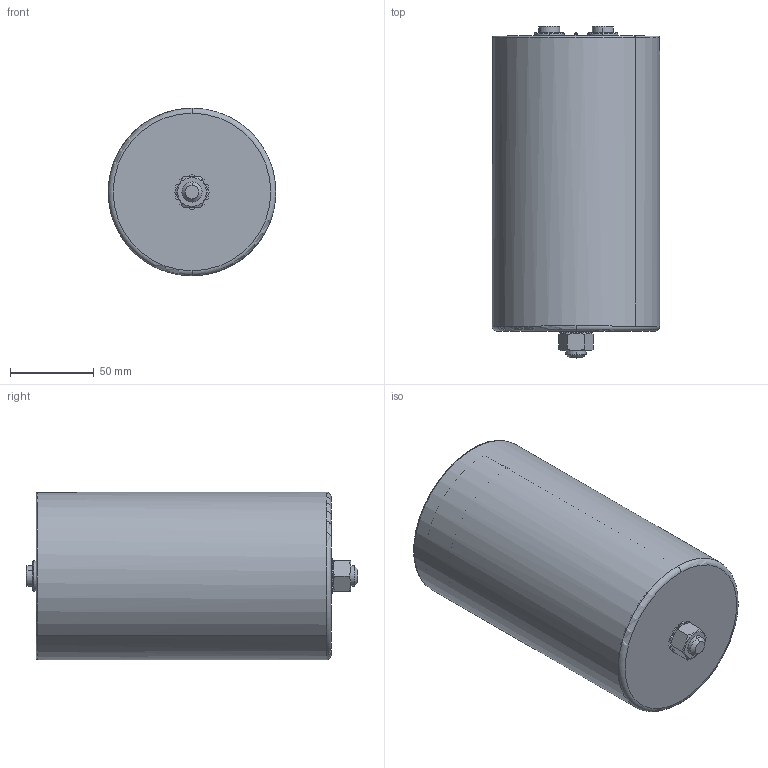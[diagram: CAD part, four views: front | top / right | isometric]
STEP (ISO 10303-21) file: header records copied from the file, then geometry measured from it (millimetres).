
FILE_DESCRIPTION (( 'STEP AP214' ), '1' );
FILE_NAME ('B25694M Series D100 Hc176 Ht182.STEP', '2025-07-24T06:45:56', ( '' ), ( '' ), 'SwSTEP 2.0', 'SolidWorks 2019', '' );
FILE_SCHEMA (( 'AUTOMOTIVE_DESIGN' ));
Length unit declared in the file: millimetre
Products named in the file (1): B25694M Series D100 Hc176 Ht182
Bounding box: 99.91 x 198 x 100 mm (x, y, z)
Volume: 113243.8 mm3; surface area: 158142.8 mm2
Topology: 1 solids, 9 shells, 395 faces, 1004 edges, 639 vertices
Faces by surface type: plane 183, cylinder 144, cone 50, torus 18
Entity records: 12333 total; most frequent: CARTESIAN_POINT 2737, DIRECTION 2045, ORIENTED_EDGE 2000, EDGE_CURVE 1000, AXIS2_PLACEMENT_3D 791, VERTEX_POINT 639, VECTOR 463, LINE 463
